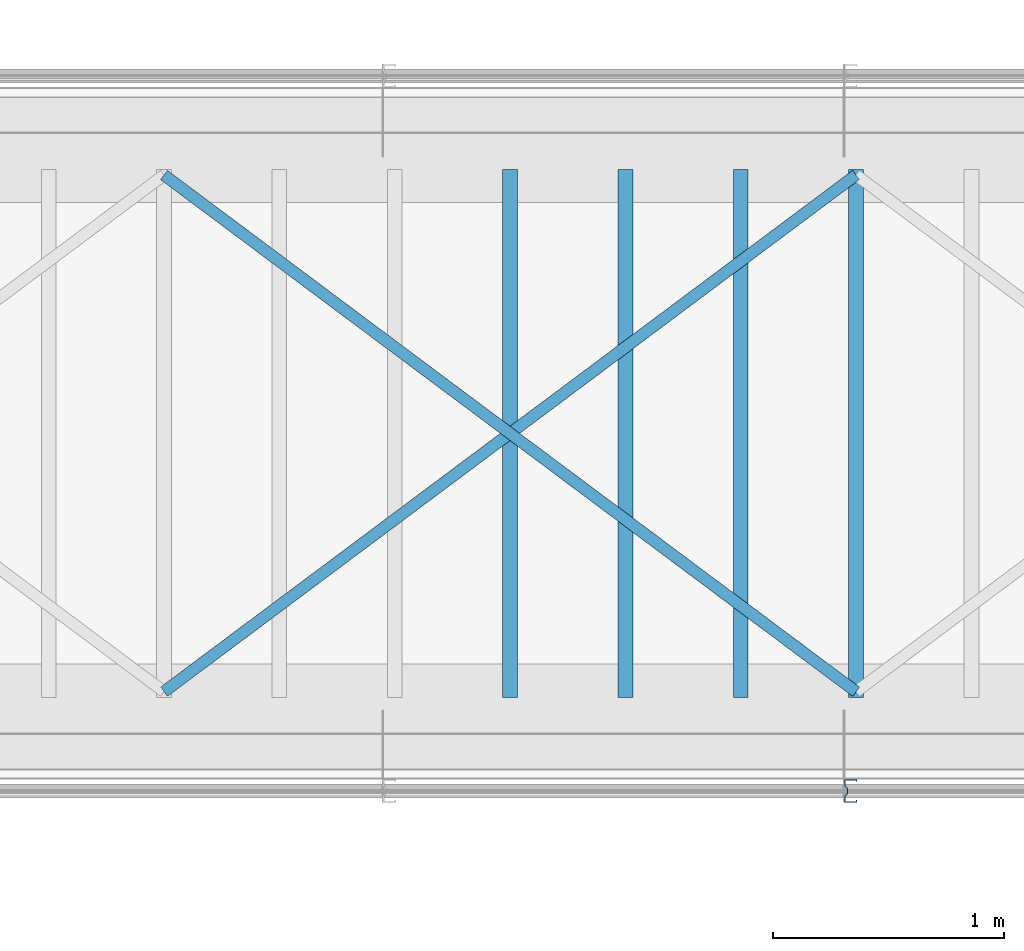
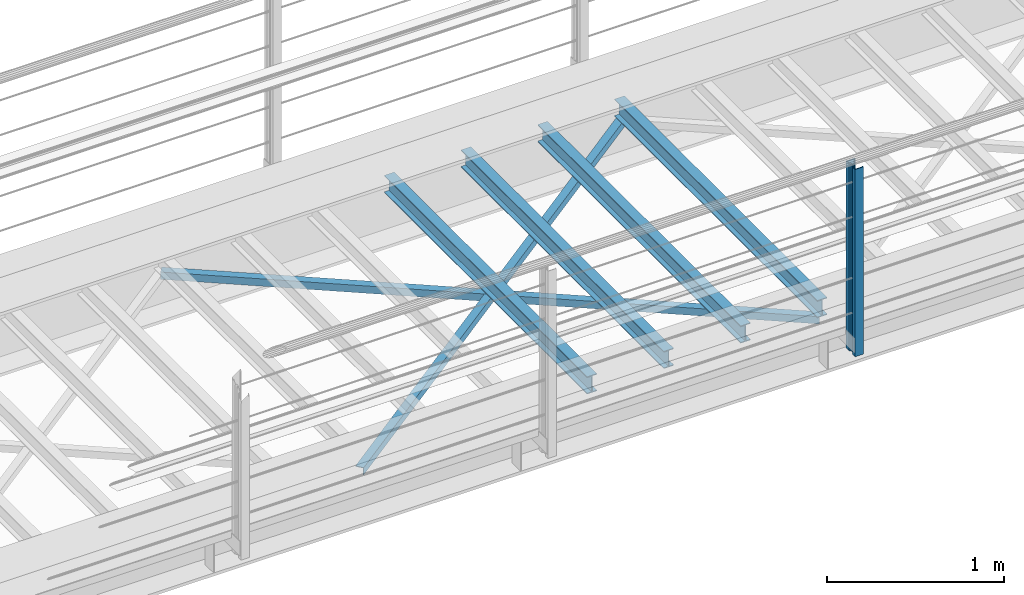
# One storey, part 10 of 31: 7 beams.
"""IFC2X3 building model written with IfcOpenShell, lengths in millimetres."""

from ifc_helpers import new_model, si_unit, frame, origin_with_axes, place, context, subcontext, project, spatial, faceted_brep, material, type_object, element, save


model = new_model("IFC2X3")

# Units and contexts
model_context = context("Model", 3, precision=1e-05, world=origin_with_axes())
body_context = subcontext(model_context, "Body", "Model", "MODEL_VIEW")
ifc_project = project(units=[si_unit("LENGTHUNIT", "METRE", prefix="MILLI"), si_unit("AREAUNIT", "SQUARE_METRE"), si_unit("VOLUMEUNIT", "CUBIC_METRE"), si_unit("MASSUNIT", "GRAM", prefix="KILO"), si_unit("TIMEUNIT", "SECOND"), si_unit("PLANEANGLEUNIT", "RADIAN"), si_unit("SOLIDANGLEUNIT", "STERADIAN"), si_unit("THERMODYNAMICTEMPERATUREUNIT", "DEGREE_CELSIUS"), si_unit("LUMINOUSINTENSITYUNIT", "LUMEN")], contexts=[model_context])

# Site, building, storey
site_placement = place(None, origin_with_axes())
site = spatial("IfcSite", under=ifc_project, at=site_placement, Name="Undefined", CompositionType="ELEMENT")
building_placement = place(site_placement, origin_with_axes())
building = spatial("IfcBuilding", under=site, at=building_placement, Name="Undefined", CompositionType="ELEMENT")
storey_placement = place(building_placement, origin_with_axes())
storey = spatial("IfcBuildingStorey", under=building, at=storey_placement, Name="Undefined", CompositionType="ELEMENT", Elevation=0.0)

# Beams
ifc_material = material(Name="STEEL/S355J2+N")
beam_type_1 = type_object("IfcBeamType", Name="IPE120", PredefinedType="NOTDEFINED")
for number, where, z_axis, x_axis in (
    (1, (13450.0, 5.75, -105.0), (0.0, 0.0, 1.0), (0.0, 1.0, 0.0)),
    (2, (12950.0, 5.75, -105.0), (0.0, 0.0, 1.0), (0.0, 1.0, 0.0)),
    (3, (12450.0, 5.75, -105.0), (0.0, 0.0, 1.0), (0.0, 1.0, 0.0)),
    (4, (11950.0, 5.75, -105.0), (0.0, 0.0, 1.0), (0.0, 1.0, 0.0)),
):
    element("IfcBeam", number, at=place(storey_placement, frame(where, z_axis=z_axis, x_axis=x_axis)), inside=storey, type_object=beam_type_1, material=ifc_material, Name="STÅLBJELKE", context=body_context, shape_type="Brep", body=[
        faceted_brep([(0.0, 32.0, -60.0), (0.0, 32.0, -53.699999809), (2288.5, 32.0, -53.699999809), (2288.5, 32.0, -60.0), (0.0, 2.2000000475, -53.699999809), (2288.5, 2.2000000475, -53.699999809), (0.0, 2.2000000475, 53.699999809), (2288.5, 2.2000000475, 53.699999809), (0.0, 32.0, 53.699999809), (2288.5, 32.0, 53.699999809), (0.0, 32.0, 60.0), (2288.5, 32.0, 60.0), (0.0, -32.0, 60.0), (2288.5, -32.0, 60.0), (0.0, -32.0, 53.699999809), (2288.5, -32.0, 53.699999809), (0.0, -2.2000000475, 53.699999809), (2288.5, -2.2000000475, 53.699999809), (0.0, -2.2000000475, -53.699999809), (2288.5, -2.2000000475, -53.699999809), (0.0, -32.0, -53.699999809), (2288.5, -32.0, -53.699999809), (0.0, -32.0, -60.0), (2288.5, -32.0, -60.0)], [[[0, 1, 2, 3]], [[1, 4, 5, 2]], [[4, 6, 7, 5]], [[6, 8, 9, 7]], [[8, 10, 11, 9]], [[10, 12, 13, 11]], [[12, 14, 15, 13]], [[14, 16, 17, 15]], [[16, 18, 19, 17]], [[18, 20, 21, 19]], [[20, 22, 23, 21]], [[22, 0, 3, 23]], [[5, 7, 9, 11, 13, 15, 17, 19, 21, 23, 3, 2]], [[22, 20, 18, 16, 14, 12, 10, 8, 6, 4, 1, 0]]]),
    ])
beam_type_2 = type_object("IfcBeamType", Name="CW100-5-10*55-10-30", PredefinedType="NOTDEFINED")
beam_placement = place(storey_placement, frame((13427.5, -400.0, 1140.0), z_axis=(0.0, 1.0, 0.0), x_axis=(0.0, 0.0, -1.0)))
element("IfcBeam", 5, at=beam_placement, inside=storey, type_object=beam_type_2, material=ifc_material, Name="STOLPE", context=body_context, shape_type="Brep", body=[
    faceted_brep([(0.0, -27.5, -50.0), (0.0, 27.5, -50.0), (1290.0, 27.5, -50.0), (1290.0, -27.5, -50.0), (0.0, 27.5, -20.0), (1290.0, 27.5, -20.0), (0.0, 17.5, -10.0), (1290.0, 17.5, -10.0), (0.0, 17.5, 10.0), (1290.0, 17.5, 10.0), (0.0, 27.5, 20.0), (1290.0, 27.5, 20.0), (0.0, 27.5, 50.0), (1290.0, 27.5, 50.0), (0.0, -27.5, 50.0), (1290.0, -27.5, 50.0), (0.0, -27.5, 40.0), (1290.0, -27.5, 40.0), (0.0, -22.5, 40.0), (1290.0, -22.5, 40.0), (0.0, -22.5, 45.0), (1290.0, -22.5, 45.0), (0.0, 22.5, 45.0), (1290.0, 22.5, 45.0), (0.0, 22.5, 21.9149999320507), (1290.0, 22.5, 21.9149999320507), (0.0, 12.5, 11.9149999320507), (1290.0, 12.5, 11.9149999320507), (0.0, 12.5, -11.9149999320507), (1290.0, 12.5, -11.9149999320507), (0.0, 22.5, -21.9149999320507), (1290.0, 22.5, -21.9149999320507), (0.0, 22.5, -45.0), (1290.0, 22.5, -45.0), (0.0, -22.5, -45.0), (1290.0, -22.5, -45.0), (0.0, -22.5, -40.0), (1290.0, -22.5, -40.0), (0.0, -27.5, -40.0), (1290.0, -27.5, -40.0)], [[[0, 1, 2, 3]], [[1, 4, 5, 2]], [[4, 6, 7, 5]], [[6, 8, 9, 7]], [[8, 10, 11, 9]], [[10, 12, 13, 11]], [[12, 14, 15, 13]], [[14, 16, 17, 15]], [[16, 18, 19, 17]], [[18, 20, 21, 19]], [[20, 22, 23, 21]], [[22, 24, 25, 23]], [[24, 26, 27, 25]], [[26, 28, 29, 27]], [[28, 30, 31, 29]], [[30, 32, 33, 31]], [[32, 34, 35, 33]], [[34, 36, 37, 35]], [[36, 38, 39, 37]], [[38, 0, 3, 39]], [[5, 7, 9, 11, 13, 15, 17, 19, 21, 23, 25, 27, 29, 31, 33, 35, 37, 39, 3, 2]], [[38, 36, 34, 32, 30, 28, 26, 24, 22, 20, 18, 16, 14, 12, 10, 8, 6, 4, 1, 0]]]),
])
beam_type_3 = type_object("IfcBeamType", Name="L50*5", PredefinedType="NOTDEFINED")
for number, where, z_axis, x_axis in (
    (6, (10450.0, 2270.0, -190.0), (0.0, 0.0, -1.0), (0.801280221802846, -0.598289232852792, 0.0)),
    (7, (10450.0000010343, 29.9999986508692, -190.0), (0.0, 0.0, -1.0), (0.801280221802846, 0.598289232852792, 0.0)),
):
    element("IfcBeam", number, at=place(storey_placement, frame(where, z_axis=z_axis, x_axis=x_axis)), inside=storey, type_object=beam_type_3, material=ifc_material, Name="STÅLBJELKE", context=body_context, shape_type="Brep", body=[
        faceted_brep([(-1.81898940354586e-12, 24.9999999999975, -25.0), (-1.81898940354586e-12, 24.9999999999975, 25.0), (3744.00854697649, 25.0000000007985, 25.0), (3744.00854697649, 25.0000000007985, -25.0), (-1.36424205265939e-12, 19.999999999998, 25.0), (3744.00854697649, 20.0000000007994, 25.0), (-1.36424205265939e-12, 19.999999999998, -20.0), (3744.00854697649, 20.0000000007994, -20.0), (1.81898940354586e-12, -24.9999999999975, -20.0), (3744.0085469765, -24.9999999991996, -20.0), (1.81898940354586e-12, -24.9999999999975, -25.0), (3744.0085469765, -24.9999999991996, -25.0)], [[[0, 1, 2, 3]], [[1, 4, 5, 2]], [[4, 6, 7, 5]], [[6, 8, 9, 7]], [[8, 10, 11, 9]], [[10, 0, 3, 11]], [[5, 7, 9, 11, 3, 2]], [[10, 8, 6, 4, 1, 0]]]),
    ])

save(model, "model.ifc")
